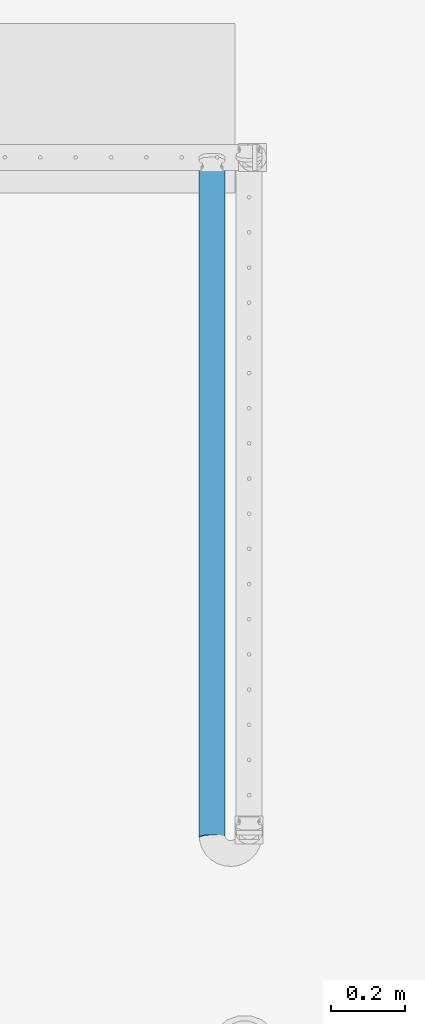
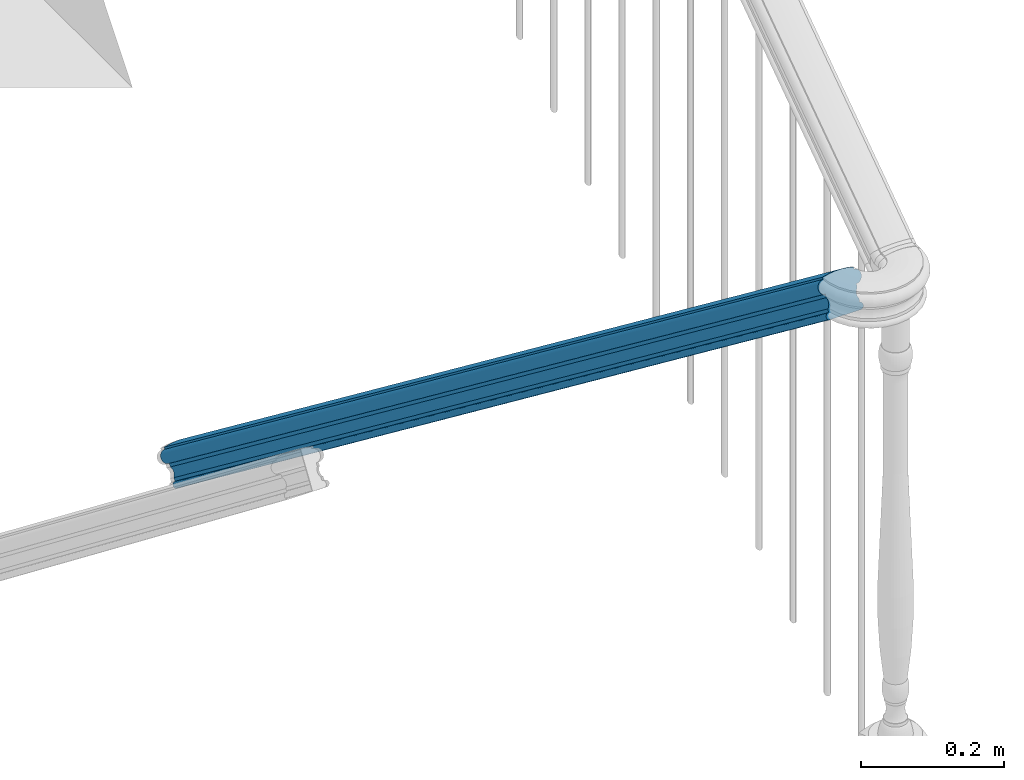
# One storey, part 15 of 77: 1 building element part, 1 element without a shape of its own.
"""IFC2X3 building model written with IfcOpenShell, lengths in inches."""

from ifc_helpers import new_model, entity, si_unit, converted_unit, derived_unit, money_unit, direction, frame, origin_with_axes, place, context, subcontext, project, spatial, faceted_brep, material, type_object, element, aggregate, save


model = new_model("IFC2X3")

# Units and contexts
model_context = context("Model", 3, precision=0.000393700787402, world=origin_with_axes(), true_north=direction((0.0, 1.0)))
body_context = subcontext(model_context, "Body", "Model", "MODEL_VIEW")
ifc_project = project(units=[converted_unit("LENGTHUNIT", "INCH", entity("IfcPositiveLengthMeasure", 0.0254), si_unit("LENGTHUNIT", "METRE"), dimensions=[1, 0, 0, 0, 0, 0, 0]), converted_unit("AREAUNIT", "SQUARE_FOOT", entity("IfcPositiveLengthMeasure", 0.09290304), si_unit("AREAUNIT", "SQUARE_METRE"), dimensions=[2, 0, 0, 0, 0, 0, 0]), si_unit("PLANEANGLEUNIT", "RADIAN"), si_unit("SOLIDANGLEUNIT", "STERADIAN"), money_unit("USD"), converted_unit("TIMEUNIT", "Year", entity("IfcTimeMeasure", 31556926.0), si_unit("TIMEUNIT", "SECOND"), dimensions=[0, 0, 1, 0, 0, 0, 0]), si_unit("MASSUNIT", "GRAM", prefix="KILO"), si_unit("THERMODYNAMICTEMPERATUREUNIT", "DEGREE_CELSIUS"), si_unit("LUMINOUSINTENSITYUNIT", "LUMEN"), si_unit("ENERGYUNIT", "JOULE", prefix="MEGA"), derived_unit("THERMALCONDUCTANCEUNIT", [(si_unit("POWERUNIT", "WATT"), 1), (si_unit("LENGTHUNIT", "METRE"), -1), (si_unit("THERMODYNAMICTEMPERATUREUNIT", "KELVIN"), -1)]), derived_unit("SPECIFICHEATCAPACITYUNIT", [(si_unit("ENERGYUNIT", "JOULE"), 1), (si_unit("MASSUNIT", "GRAM", prefix="KILO"), -1), (si_unit("THERMODYNAMICTEMPERATUREUNIT", "KELVIN"), -1)]), derived_unit("MASSDENSITYUNIT", [(si_unit("MASSUNIT", "GRAM", prefix="KILO"), 1), (si_unit("VOLUMEUNIT", "CUBIC_METRE"), -1)])], contexts=[model_context])

# Site, building, storey
site_placement = place(None, origin_with_axes())
site = spatial("IfcSite", under=ifc_project, at=site_placement, Name="Site", CompositionType="ELEMENT")
building_placement = place(site_placement, origin_with_axes())
building = spatial("IfcBuilding", under=site, at=building_placement, Name="Building", CompositionType="ELEMENT")
storey_placement = place(building_placement, frame((0.0, 0.0, 127.952755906), z_axis=(0.0, 0.0, 1.0), x_axis=(1.0, 0.0, 0.0)))
storey = spatial("IfcBuildingStorey", under=building, at=storey_placement, Name="Second Floor", CompositionType="ELEMENT", Elevation=127.953)

# Railing, building element part
railing_type = type_object("IfcRailingType", Name="Railing Type", PredefinedType="NOTDEFINED")
railing_placement = place(storey_placement, frame((680.741415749, 72.1889513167, -111.626157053), z_axis=(0.0, 0.0, 1.0), x_axis=(1.0, 0.0, 0.0)))
railing = element("IfcRailing", 1, at=railing_placement, inside=storey, type_object=railing_type, Name="RAILING - 001", PredefinedType="NOTDEFINED")
ifc_material = material(Name="Wood - Structural")
building_element_part_placement = place(railing_placement, origin_with_axes())
building_element_part = element("IfcBuildingElementPart", 2, at=building_element_part_placement, material=ifc_material, Name="Wood - Structural", context=body_context, shape_type="Brep", body=[
    faceted_brep([(0.711034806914, 0.171109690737, 95.2682124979), (0.711034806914, 0.129620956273, 95.1455621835), (0.711034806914, 72.5693057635, 39.8050726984), (0.711034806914, 72.6437633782, 39.9025363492), (0.652486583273, 0.175928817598, 95.2824589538), (0.282678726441, 0.199363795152, 95.3517381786), (-0.0914050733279, 0.211126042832, 95.3865101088), (-0.46691781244, 0.211126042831, 95.3865101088), (-0.841001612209, 0.199363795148, 95.3517381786), (-1.21080946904, 0.175928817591, 95.2824589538), (-1.26935769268, 0.17110969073, 95.2682124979), (-1.26935769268, 0.129620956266, 95.1455621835), (-1.30289554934, 0.129094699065, 95.1440064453), (-1.36895223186, 0.124908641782, 95.1316314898), (-1.4319827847, 0.116663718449, 95.1072575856), (-1.49007205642, 0.10461044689, 95.0716253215), (-1.54145503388, 0.0891150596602, 95.0258173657), (-1.58457047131, 0.070648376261, 94.9712255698), (-1.61810832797, 0.0497714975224, 94.9095086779), (-1.64104957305, 0.0271187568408, 94.8425419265), (-1.65269714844, 0.00337844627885, 94.7723600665), (-1.65269714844, -0.0207280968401, 94.7010955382), (-1.64104957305, -0.044468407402, 94.6309136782), (-1.61810832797, -0.0671211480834, 94.5639469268), (-1.58457047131, -0.0879980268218, 94.5022300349), (-1.54145503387, -0.106464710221, 94.447638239), (-1.49007205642, -0.12196009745, 94.4018302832), (-1.4319827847, -0.134013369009, 94.366198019), (-1.36895223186, -0.142258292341, 94.3418241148), (-1.30289554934, -0.146444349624, 94.3294491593), (-1.26935769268, -0.146970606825, 94.3278934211), (-1.26935769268, -0.216118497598, 94.1234762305), (-1.24678082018, -0.226755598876, 94.0920304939), (-1.20698764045, -0.251526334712, 94.018802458), (-1.17976750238, -0.278404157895, 93.9393453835), (-1.1659474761, -0.306572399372, 93.8560735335), (-1.1659474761, -0.335175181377, 93.7715170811), (-1.17976750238, -0.363343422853, 93.6882452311), (-1.20698764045, -0.390221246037, 93.6087881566), (-1.24678082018, -0.414991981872, 93.5355601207), (-1.26935769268, -0.425629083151, 93.5041143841), (-1.26935769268, -0.494776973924, 93.2996971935), (-1.28612662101, -0.495040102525, 93.2989193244), (-1.31915496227, -0.497133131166, 93.2927318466), (-1.35067023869, -0.501255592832, 93.2805448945), (-1.37971487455, -0.507282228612, 93.2627287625), (-1.40540636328, -0.515029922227, 93.2398247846), (-1.42696408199, -0.524263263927, 93.2125288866), (-1.44373301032, -0.534701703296, 93.1816704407), (-1.45520363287, -0.546028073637, 93.148187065), (-1.46102742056, -0.557898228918, 93.113096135), (-1.46102742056, -0.569951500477, 93.0774638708), (-1.45520363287, -0.581821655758, 93.0423729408), (-1.44373301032, -0.593148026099, 93.0088895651), (-1.42696408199, -0.603586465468, 92.9780311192), (-1.40540636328, -0.612819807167, 92.9507352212), (-1.37971487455, -0.620567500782, 92.9278312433), (-1.35067023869, -0.626594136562, 92.9100151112), (-1.31915496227, -0.630716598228, 92.8978281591), (-1.28612662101, -0.632809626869, 92.8916406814), (-1.26935769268, -0.63307275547, 92.8908628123), (0.711034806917, -0.633072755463, 92.8908628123), (0.727803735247, -0.632809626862, 92.8916406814), (0.760832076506, -0.630716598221, 92.8978281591), (0.792347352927, -0.626594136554, 92.9100151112), (0.821391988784, -0.620567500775, 92.9278312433), (0.847083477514, -0.61281980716, 92.9507352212), (0.868641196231, -0.60358646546, 92.9780311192), (0.885410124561, -0.593148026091, 93.0088895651), (0.896880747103, -0.58182165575, 93.0423729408), (0.902704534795, -0.569951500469, 93.0774638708), (0.902704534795, -0.55789822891, 93.113096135), (0.896880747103, -0.546028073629, 93.148187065), (0.885410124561, -0.534701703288, 93.1816704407), (0.86864119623, -0.524263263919, 93.2125288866), (0.847083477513, -0.515029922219, 93.2398247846), (0.821391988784, -0.507282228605, 93.2627287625), (0.792347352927, -0.501255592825, 93.2805448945), (0.760832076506, -0.497133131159, 93.2927318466), (0.727803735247, -0.495040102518, 93.2989193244), (0.711034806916, -0.494776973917, 93.2996971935), (0.711034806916, -0.425629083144, 93.5041143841), (0.688457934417, -0.414991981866, 93.5355601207), (0.648664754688, -0.390221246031, 93.6087881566), (0.621444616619, -0.363343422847, 93.6882452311), (0.607624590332, -0.335175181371, 93.7715170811), (0.607624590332, -0.306572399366, 93.8560735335), (0.621444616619, -0.278404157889, 93.9393453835), (0.648664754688, -0.251526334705, 94.018802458), (0.688457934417, -0.22675559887, 94.0920304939), (0.711034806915, -0.216118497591, 94.1234762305), (0.711034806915, -0.146970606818, 94.3278934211), (0.744572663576, -0.146444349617, 94.3294491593), (0.810629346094, -0.142258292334, 94.3418241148), (0.873659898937, -0.134013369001, 94.366198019), (0.93174917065, -0.121960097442, 94.4018302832), (0.983132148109, -0.106464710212, 94.447638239), (1.02624758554, -0.087998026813, 94.5022300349), (1.0597854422, -0.0671211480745, 94.5639469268), (1.08272668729, -0.0444684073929, 94.6309136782), (1.09437426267, -0.0207280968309, 94.7010955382), (1.09437426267, 0.00337844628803, 94.7723600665), (1.08272668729, 0.0271187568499, 94.8425419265), (1.0597854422, 0.0497714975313, 94.9095086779), (1.02624758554, 0.0706483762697, 94.9712255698), (0.983132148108, 0.0891150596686, 95.0258173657), (0.93174917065, 0.104610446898, 95.0716253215), (0.873659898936, 0.116663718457, 95.1072575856), (0.810629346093, 0.124908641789, 95.1316314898), (0.744572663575, 0.129094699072, 95.1440064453), (0.744572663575, 72.5683613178, 39.8038364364), (0.810629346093, 72.5608488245, 39.7940027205), (0.873659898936, 72.5460521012, 39.7746340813), (0.931749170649, 72.5244207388, 39.7463190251), (0.983132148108, 72.4966119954, 39.7099178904), (1.02624758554, 72.4634708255, 39.6665367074), (1.0597854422, 72.4260042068, 39.6174935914), (1.08272668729, 72.3853505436, 39.5642786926), (1.09437426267, 72.3427450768, 39.5085089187), (1.09437426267, 72.2994823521, 39.4518788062), (1.08272668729, 72.2568768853, 39.3961090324), (1.0597854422, 72.2162232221, 39.3428941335), (1.02624758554, 72.1787566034, 39.2938510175), (0.983132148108, 72.1456154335, 39.2504698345), (0.931749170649, 72.1178066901, 39.2140686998), (0.873659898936, 72.0961753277, 39.1857536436), (0.810629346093, 72.0813786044, 39.1663850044), (0.744572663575, 72.0738661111, 39.1565512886), (0.711034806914, 72.0729216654, 39.1553150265), (0.711034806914, 71.9488256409, 38.9928756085), (0.688457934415, 71.9297358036, 38.967887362), (0.648664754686, 71.8852810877, 38.9096969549), (0.621444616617, 71.8370448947, 38.8465566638), (0.60762459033, 71.7864928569, 38.7803849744), (0.60762459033, 71.7351609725, 38.71319248), (0.621444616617, 71.6846089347, 38.6470207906), (0.648664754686, 71.6363727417, 38.5838804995), (0.688457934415, 71.5919180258, 38.5256900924), (0.711034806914, 71.5728281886, 38.5007018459), (0.711034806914, 71.448732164, 38.3382624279), (0.727803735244, 71.4482599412, 38.3376442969), (0.760832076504, 71.4445036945, 38.332727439), (0.792347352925, 71.4371053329, 38.3230431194), (0.821391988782, 71.4262896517, 38.3088855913), (0.847083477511, 71.41238528, 38.2906850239), (0.868641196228, 71.395814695, 38.2689944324), (0.885410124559, 71.3770813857, 38.2444728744), (0.896880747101, 71.3567545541, 38.217865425), (0.902704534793, 71.3354518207, 38.1899805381), (0.902704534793, 71.3138204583, 38.1616654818), (0.896880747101, 71.2925177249, 38.1337805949), (0.885410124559, 71.2721908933, 38.1071731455), (0.868641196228, 71.253457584, 38.0826515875), (0.847083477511, 71.236886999, 38.060960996), (0.821391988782, 71.2229826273, 38.0427604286), (0.792347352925, 71.2121669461, 38.0286029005), (0.760832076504, 71.2047685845, 38.0189185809), (0.727803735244, 71.2010123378, 38.014001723), (0.711034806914, 71.200540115, 38.013383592), (-1.26935769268, 71.200540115, 38.013383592), (-1.28612662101, 71.2010123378, 38.014001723), (-1.31915496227, 71.2047685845, 38.0189185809), (-1.35067023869, 71.2121669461, 38.0286029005), (-1.37971487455, 71.2229826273, 38.0427604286), (-1.40540636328, 71.236886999, 38.060960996), (-1.426964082, 71.253457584, 38.0826515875), (-1.44373301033, 71.2721908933, 38.1071731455), (-1.45520363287, 71.2925177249, 38.1337805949), (-1.46102742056, 71.3138204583, 38.1616654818), (-1.46102742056, 71.3354518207, 38.1899805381), (-1.45520363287, 71.3567545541, 38.217865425), (-1.44373301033, 71.3770813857, 38.2444728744), (-1.426964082, 71.395814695, 38.2689944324), (-1.40540636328, 71.41238528, 38.2906850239), (-1.37971487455, 71.4262896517, 38.3088855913), (-1.35067023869, 71.4371053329, 38.3230431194), (-1.31915496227, 71.4445036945, 38.332727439), (-1.28612662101, 71.4482599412, 38.3376442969), (-1.26935769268, 71.448732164, 38.3382624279), (-1.26935769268, 71.5728281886, 38.5007018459), (-1.24678082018, 71.5919180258, 38.5256900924), (-1.20698764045, 71.6363727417, 38.5838804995), (-1.17976750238, 71.6846089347, 38.6470207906), (-1.1659474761, 71.7351609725, 38.71319248), (-1.1659474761, 71.7864928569, 38.7803849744), (-1.17976750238, 71.8370448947, 38.8465566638), (-1.20698764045, 71.8852810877, 38.9096969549), (-1.24678082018, 71.9297358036, 38.967887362), (-1.26935769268, 71.9488256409, 38.9928756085), (-1.26935769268, 72.0729216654, 39.1553150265), (-1.30289554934, 72.0738661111, 39.1565512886), (-1.36895223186, 72.0813786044, 39.1663850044), (-1.4319827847, 72.0961753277, 39.1857536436), (-1.49007205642, 72.1178066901, 39.2140686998), (-1.54145503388, 72.1456154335, 39.2504698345), (-1.58457047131, 72.1787566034, 39.2938510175), (-1.61810832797, 72.2162232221, 39.3428941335), (-1.64104957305, 72.2568768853, 39.3961090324), (-1.65269714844, 72.2994823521, 39.4518788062), (-1.65269714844, 72.3427450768, 39.5085089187), (-1.64104957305, 72.3853505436, 39.5642786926), (-1.61810832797, 72.4260042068, 39.6174935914), (-1.58457047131, 72.4634708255, 39.6665367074), (-1.54145503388, 72.4966119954, 39.7099178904), (-1.49007205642, 72.5244207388, 39.7463190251), (-1.4319827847, 72.5460521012, 39.7746340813), (-1.36895223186, 72.5608488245, 39.7940027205), (-1.30289554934, 72.5683613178, 39.8038364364), (-1.26935769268, 72.5693057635, 39.8050726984), (-1.26935769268, 72.6437633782, 39.9025363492), (-1.21080946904, 72.6524120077, 39.9138572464), (-0.841001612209, 72.6944695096, 39.9689097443), (-0.46691781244, 72.715578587, 39.9965411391), (-0.0914050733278, 72.715578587, 39.9965411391), (0.282678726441, 72.6944695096, 39.9689097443), (0.652486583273, 72.6524120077, 39.9138572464)], [[[0, 1, 2, 3]], [[0, 4, 5, 6, 7, 8, 9, 10, 11, 12, 13, 14, 15, 16, 17, 18, 19, 20, 21, 22, 23, 24, 25, 26, 27, 28, 29, 30, 31, 32, 33, 34, 35, 36, 37, 38, 39, 40, 41, 42, 43, 44, 45, 46, 47, 48, 49, 50, 51, 52, 53, 54, 55, 56, 57, 58, 59, 60, 61, 62, 63, 64, 65, 66, 67, 68, 69, 70, 71, 72, 73, 74, 75, 76, 77, 78, 79, 80, 81, 82, 83, 84, 85, 86, 87, 88, 89, 90, 91, 92, 93, 94, 95, 96, 97, 98, 99, 100, 101, 102, 103, 104, 105, 106, 107, 108, 109, 1]], [[1, 109, 110, 2]], [[3, 2, 110, 111, 112, 113, 114, 115, 116, 117, 118, 119, 120, 121, 122, 123, 124, 125, 126, 127, 128, 129, 130, 131, 132, 133, 134, 135, 136, 137, 138, 139, 140, 141, 142, 143, 144, 145, 146, 147, 148, 149, 150, 151, 152, 153, 154, 155, 156, 157, 158, 159, 160, 161, 162, 163, 164, 165, 166, 167, 168, 169, 170, 171, 172, 173, 174, 175, 176, 177, 178, 179, 180, 181, 182, 183, 184, 185, 186, 187, 188, 189, 190, 191, 192, 193, 194, 195, 196, 197, 198, 199, 200, 201, 202, 203, 204, 205, 206, 207, 208, 209, 210, 211, 212, 213, 214, 215]], [[4, 0, 3, 215]], [[5, 4, 215, 214]], [[6, 5, 214, 213]], [[7, 6, 213, 212]], [[8, 7, 212, 211]], [[9, 8, 211, 210]], [[10, 9, 210, 209]], [[11, 10, 209, 208]], [[12, 11, 208, 207]], [[13, 12, 207, 206]], [[14, 13, 206, 205]], [[15, 14, 205, 204]], [[16, 15, 204, 203]], [[17, 16, 203, 202]], [[18, 17, 202, 201]], [[19, 18, 201, 200]], [[20, 19, 200, 199]], [[21, 20, 199, 198]], [[22, 21, 198, 197]], [[23, 22, 197, 196]], [[24, 23, 196, 195]], [[25, 24, 195, 194]], [[26, 25, 194, 193]], [[27, 26, 193, 192]], [[28, 27, 192, 191]], [[29, 28, 191, 190]], [[30, 29, 190, 189]], [[31, 30, 189, 188]], [[32, 31, 188, 187]], [[33, 32, 187, 186]], [[34, 33, 186, 185]], [[35, 34, 185, 184]], [[36, 35, 184, 183]], [[37, 36, 183, 182]], [[38, 37, 182, 181]], [[39, 38, 181, 180]], [[40, 39, 180, 179]], [[41, 40, 179, 178]], [[42, 41, 178, 177]], [[43, 42, 177, 176]], [[44, 43, 176, 175]], [[45, 44, 175, 174]], [[46, 45, 174, 173]], [[47, 46, 173, 172]], [[48, 47, 172, 171]], [[49, 48, 171, 170]], [[50, 49, 170, 169]], [[51, 50, 169, 168]], [[52, 51, 168, 167]], [[53, 52, 167, 166]], [[54, 53, 166, 165]], [[55, 54, 165, 164]], [[56, 55, 164, 163]], [[57, 56, 163, 162]], [[58, 57, 162, 161]], [[59, 58, 161, 160]], [[60, 59, 160, 159]], [[61, 60, 159, 158]], [[62, 61, 158, 157]], [[63, 62, 157, 156]], [[64, 63, 156, 155]], [[65, 64, 155, 154]], [[66, 65, 154, 153]], [[67, 66, 153, 152]], [[68, 67, 152, 151]], [[69, 68, 151, 150]], [[70, 69, 150, 149]], [[71, 70, 149, 148]], [[72, 71, 148, 147]], [[73, 72, 147, 146]], [[74, 73, 146, 145]], [[75, 74, 145, 144]], [[76, 75, 144, 143]], [[77, 76, 143, 142]], [[78, 77, 142, 141]], [[79, 78, 141, 140]], [[80, 79, 140, 139]], [[81, 80, 139, 138]], [[82, 81, 138, 137]], [[83, 82, 137, 136]], [[84, 83, 136, 135]], [[85, 84, 135, 134]], [[86, 85, 134, 133]], [[87, 86, 133, 132]], [[88, 87, 132, 131]], [[89, 88, 131, 130]], [[90, 89, 130, 129]], [[91, 90, 129, 128]], [[92, 91, 128, 127]], [[93, 92, 127, 126]], [[94, 93, 126, 125]], [[95, 94, 125, 124]], [[96, 95, 124, 123]], [[97, 96, 123, 122]], [[98, 97, 122, 121]], [[99, 98, 121, 120]], [[100, 99, 120, 119]], [[101, 100, 119, 118]], [[102, 101, 118, 117]], [[103, 102, 117, 116]], [[104, 103, 116, 115]], [[105, 104, 115, 114]], [[106, 105, 114, 113]], [[107, 106, 113, 112]], [[108, 107, 112, 111]], [[109, 108, 111, 110]]]),
])
aggregate(railing, [building_element_part])

save(model, "model.ifc")
